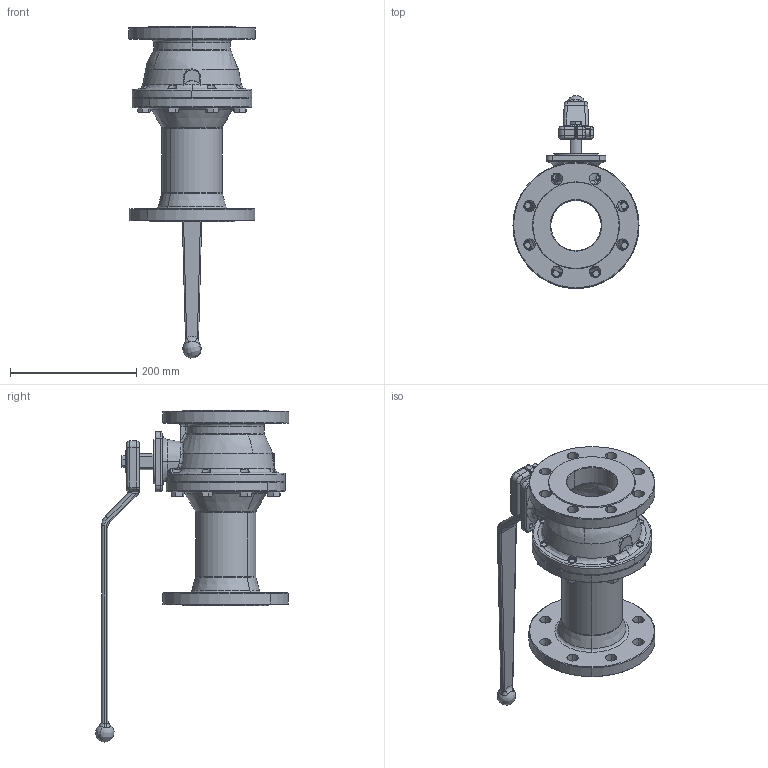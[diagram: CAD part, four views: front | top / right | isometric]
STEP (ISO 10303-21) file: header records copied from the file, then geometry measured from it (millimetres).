
FILE_DESCRIPTION (( 'STEP AP214' ), '1' );
FILE_NAME ('0316080.STEP', '2015-06-15T06:48:23', ( 'pere' ), ( '' ), 'SwSTEP 2.0', 'SolidWorks 2013', '' );
FILE_SCHEMA (( 'AUTOMOTIVE_DESIGN' ));
Length unit declared in the file: millimetre
Products named in the file (9): DIN 912 M8 x 25 --- 25C_DIN 912 M8 x 25 --- 25C; _ISO 4017 - M12 x 30-N; ISO 4017 - M10 x 20-N_ISO 4017 - M10 x 20-N; 5180_17; M080CHST; EPI80Q; 0316080L; 0516080C; 0316080
Assembly tree (15 placements, depth 2):
  0316080
    0516080C
    0316080L
    EPI80Q
    M080CHST
    5180_17
    ISO 4017 - M10 x 20-N_ISO 4017 - M10 x 20-N
    _ISO 4017 - M12 x 30-N  x8
    DIN 912 M8 x 25 --- 25C_DIN 912 M8 x 25 --- 25C
Bounding box: 200 x 306.8 x 526.85 mm (x, y, z)
Volume: 2760290.8 mm3; surface area: 498806.8 mm2
Topology: 15 solids, 15 shells, 802 faces, 1965 edges, 1193 vertices
Faces by surface type: cylinder 259, plane 227, cone 153, bspline 141, torus 22
Entity records: 40422 total; most frequent: CARTESIAN_POINT 26624, ORIENTED_EDGE 3020, DIRECTION 2451, EDGE_CURVE 1510, AXIS2_PLACEMENT_3D 1004, VERTEX_POINT 955, EDGE_LOOP 709, ADVANCED_FACE 599
